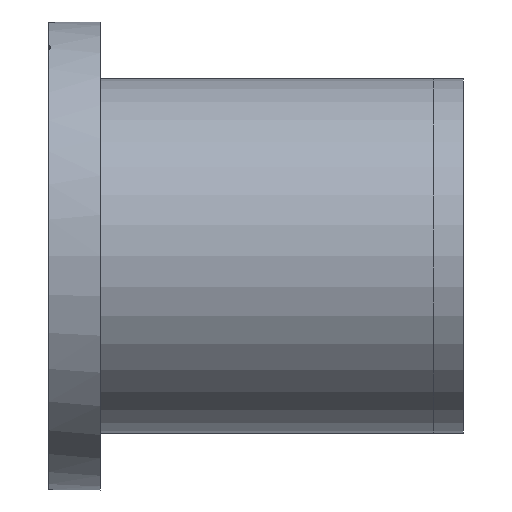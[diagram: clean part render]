
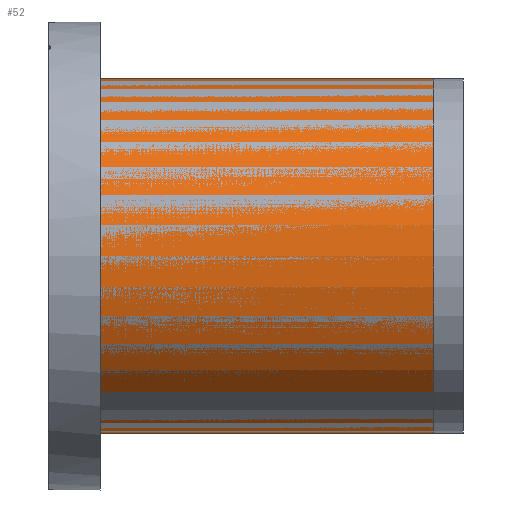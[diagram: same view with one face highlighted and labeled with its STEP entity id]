
A CAD part, top view. The second image highlights one B-rep face of the part: STEP entity #52.
In plain terms, the highlighted cylindrical face has radius 77 mm (diameter 154 mm), a full revolution.
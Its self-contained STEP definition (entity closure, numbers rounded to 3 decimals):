
#52 = ADVANCED_FACE( '', ( #90, #91 ), #92, .T. );
#90 = FACE_OUTER_BOUND( '', #122, .T. );
#91 = FACE_OUTER_BOUND( '', #123, .T. );
#92 = CYLINDRICAL_SURFACE( '', #124, 77. );
#122 = EDGE_LOOP( '', ( #184 ) );
#123 = EDGE_LOOP( '', ( #185 ) );
#124 = AXIS2_PLACEMENT_3D( '', #186, #187, #188 );
#184 = ORIENTED_EDGE( '', *, *, #326, .T. );
#185 = ORIENTED_EDGE( '', *, *, #329, .F. );
#186 = CARTESIAN_POINT( '', ( 157.5, 0., 0. ) );
#187 = DIRECTION( '', ( 1., 0., 0. ) );
#188 = DIRECTION( '', ( 0., 0., 1. ) );
#326 = EDGE_CURVE( '', #470, #470, #471, .T. );
#329 = EDGE_CURVE( '', #475, #475, #476, .T. );
#470 = VERTEX_POINT( '', #701 );
#471 = CIRCLE( '', #702, 77. );
#475 = VERTEX_POINT( '', #706 );
#476 = CIRCLE( '', #707, 77. );
#701 = CARTESIAN_POINT( '', ( 157.5, 77., 0. ) );
#702 = AXIS2_PLACEMENT_3D( '', #773, #774, #775 );
#706 = CARTESIAN_POINT( '', ( 0., 77., 0. ) );
#707 = AXIS2_PLACEMENT_3D( '', #779, #780, #781 );
#773 = CARTESIAN_POINT( '', ( 157.5, 0., 0. ) );
#774 = DIRECTION( '', ( -1., 0., 0. ) );
#775 = DIRECTION( '', ( 0., 1., 0. ) );
#779 = CARTESIAN_POINT( '', ( 0., 0., 0. ) );
#780 = DIRECTION( '', ( -1., 0., 0. ) );
#781 = DIRECTION( '', ( 0., 1., 0. ) );
